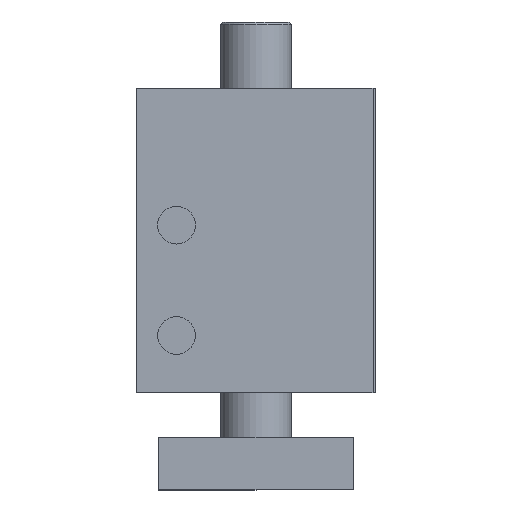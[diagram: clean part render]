
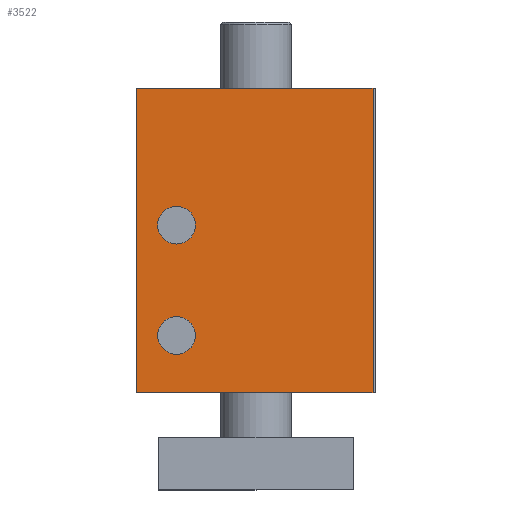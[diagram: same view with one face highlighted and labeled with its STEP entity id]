
A CAD part, front view. The second image highlights one B-rep face of the part: STEP entity #3522.
In plain terms, the highlighted planar face has unit normal (0, -1, 0).
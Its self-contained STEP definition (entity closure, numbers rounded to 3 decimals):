
#255=CARTESIAN_POINT('',(-27.0,-60.0,0.0));
#256=VERTEX_POINT('',#255);
#263=CARTESIAN_POINT('',(-27.0,-60.0,69.0));
#264=VERTEX_POINT('',#263);
#265=CARTESIAN_POINT('',(-27.0,-60.0,0.0));
#266=DIRECTION('',(0.0,0.0,1.0));
#267=VECTOR('',#266,69.0);
#268=LINE('',#265,#267);
#269=EDGE_CURVE('',#256,#264,#268,.T.);
#971=CARTESIAN_POINT('',(26.5,-60.0,0.0));
#972=VERTEX_POINT('',#971);
#979=CARTESIAN_POINT('',(-27.0,-60.0,0.0));
#980=DIRECTION('',(1.0,0.0,0.0));
#981=VECTOR('',#980,53.5);
#982=LINE('',#979,#981);
#983=EDGE_CURVE('',#256,#972,#982,.T.);
#2359=CARTESIAN_POINT('',(-13.717,-60.0,38.0));
#2360=VERTEX_POINT('',#2359);
#2361=CARTESIAN_POINT('',(-18.0,-60.0,38.0));
#2362=DIRECTION('',(0.0,1.0,0.0));
#2363=DIRECTION('',(1.0,0.0,0.0));
#2364=AXIS2_PLACEMENT_3D('',#2361,#2362,#2363);
#2365=CIRCLE('',#2364,4.283);
#2366=EDGE_CURVE('',#2360,#2360,#2365,.T.);
#2396=CARTESIAN_POINT('',(-13.717,-60.0,13.0));
#2397=VERTEX_POINT('',#2396);
#2398=CARTESIAN_POINT('',(-18.0,-60.0,13.0));
#2399=DIRECTION('',(0.0,1.0,0.0));
#2400=DIRECTION('',(1.0,0.0,0.0));
#2401=AXIS2_PLACEMENT_3D('',#2398,#2399,#2400);
#2402=CIRCLE('',#2401,4.283);
#2403=EDGE_CURVE('',#2397,#2397,#2402,.T.);
#3481=CARTESIAN_POINT('',(26.5,-60.0,69.0));
#3482=VERTEX_POINT('',#3481);
#3489=CARTESIAN_POINT('',(26.5,-60.0,0.0));
#3490=DIRECTION('',(0.0,0.0,1.0));
#3491=VECTOR('',#3490,69.0);
#3492=LINE('',#3489,#3491);
#3493=EDGE_CURVE('',#972,#3482,#3492,.T.);
#3500=CARTESIAN_POINT('',(26.5,-60.0,0.0));
#3501=DIRECTION('',(0.0,-1.0,0.0));
#3502=DIRECTION('',(0.0,0.0,-1.0));
#3503=AXIS2_PLACEMENT_3D('',#3500,#3501,#3502);
#3504=PLANE('',#3503);
#3505=CARTESIAN_POINT('',(26.5,-60.0,69.0));
#3506=DIRECTION('',(-1.0,0.0,0.0));
#3507=VECTOR('',#3506,53.5);
#3508=LINE('',#3505,#3507);
#3509=EDGE_CURVE('',#3482,#264,#3508,.T.);
#3510=ORIENTED_EDGE('',*,*,#3509,.T.);
#3511=ORIENTED_EDGE('',*,*,#269,.F.);
#3512=ORIENTED_EDGE('',*,*,#983,.T.);
#3513=ORIENTED_EDGE('',*,*,#3493,.T.);
#3514=EDGE_LOOP('',(#3510,#3511,#3512,#3513));
#3515=FACE_OUTER_BOUND('',#3514,.T.);
#3516=ORIENTED_EDGE('',*,*,#2366,.T.);
#3517=EDGE_LOOP('',(#3516));
#3518=FACE_BOUND('',#3517,.T.);
#3519=ORIENTED_EDGE('',*,*,#2403,.T.);
#3520=EDGE_LOOP('',(#3519));
#3521=FACE_BOUND('',#3520,.T.);
#3522=ADVANCED_FACE('',(#3515,#3518,#3521),#3504,.T.);
